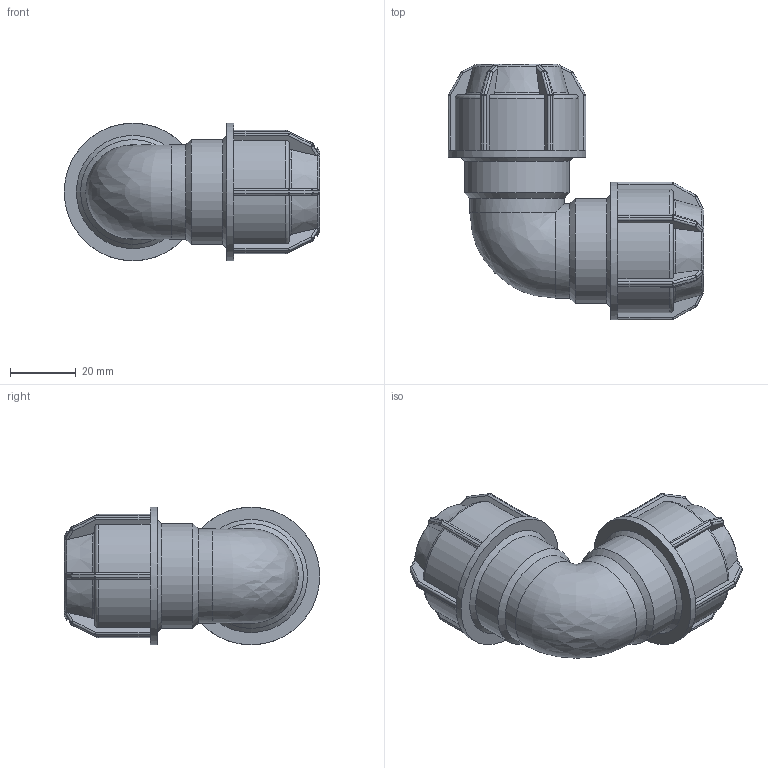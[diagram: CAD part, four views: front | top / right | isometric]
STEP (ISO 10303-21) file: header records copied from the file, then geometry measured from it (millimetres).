
FILE_DESCRIPTION(/* description */ ('PLASSON L.14 90° ELBOW (SILVER) 20-20'),/* implementation_level */ '2;1');
FILE_NAME(/* name */ 'C:\Dropbox\KIMPROJECTS-Inventor\99-16-3568-Processing\Silver+MF ISRAEL\140500\140500020.ipt.stp',/* time_stamp */ '2018-04-09T13:03:45+03:00',/* author */ ('KIM'),/* organization */ (''),/* preprocessor_version */ 'ST-DEVELOPER v15.6',/* originating_system */ 'Autodesk Inventor 2015',/* authorisation */ '');
FILE_SCHEMA (('AUTOMOTIVE_DESIGN { 1 0 10303 214 3 1 1 }'));
Length unit declared in the file: millimetre
Products named in the file (1): 140500020
Bounding box: 78 x 78 x 42 mm (x, y, z)
Volume: 62797.2 mm3; surface area: 22332 mm2
Topology: 1 solids, 1 shells, 410 faces, 986 edges, 564 vertices
Faces by surface type: plane 194, cylinder 120, sphere 48, torus 29, cone 18, bspline 1
Full cylindrical faces by diameter (mm): 18 x2, 20 x4, 28.8 x2, 32 x2, 42 x2
Entity records: 11864 total; most frequent: CARTESIAN_POINT 3076, DIRECTION 1850, ORIENTED_EDGE 1810, EDGE_CURVE 905, AXIS2_PLACEMENT_3D 745, VERTEX_POINT 532, EDGE_LOOP 435, FACE_OUTER_BOUND 404
